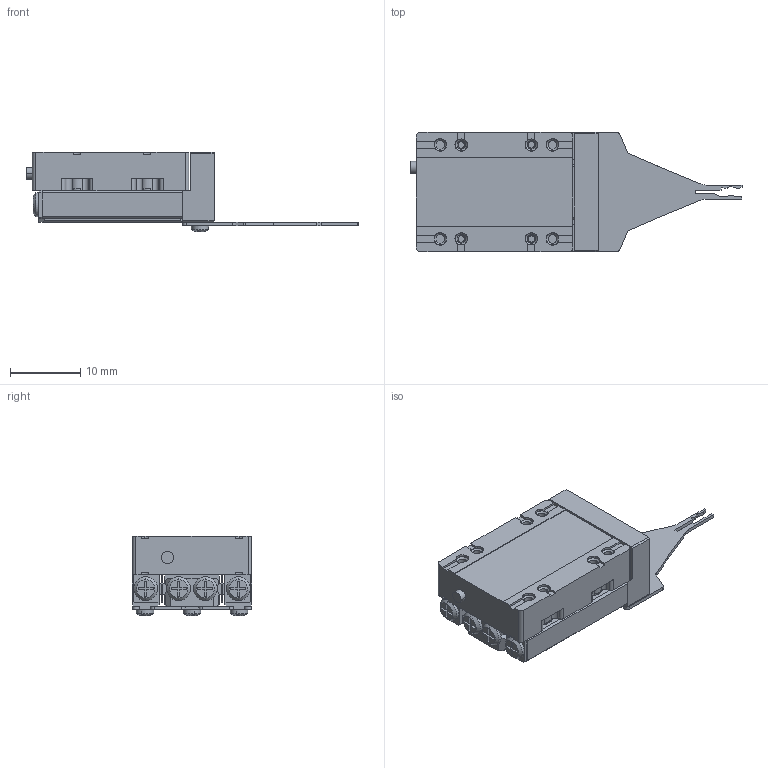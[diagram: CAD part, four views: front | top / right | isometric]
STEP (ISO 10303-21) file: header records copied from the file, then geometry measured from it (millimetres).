
FILE_DESCRIPTION (( 'STEP AP214' ), '1' );
FILE_NAME ('YGPU-P03.STEP', '2026-06-11T03:51:17', ( '' ), ( '' ), 'SwSTEP 2.0', 'SolidWorks 2022', '' );
FILE_SCHEMA (( 'AUTOMOTIVE_DESIGN' ));
Length unit declared in the file: millimetre
Products named in the file (1): YGPU-P03
Bounding box: 47.3 x 17 x 11.38 mm (x, y, z)
Volume: 3865.4 mm3; surface area: 4820.4 mm2
Topology: 26 solids, 26 shells, 887 faces, 2156 edges, 1339 vertices
Faces by surface type: plane 482, cylinder 217, cone 144, torus 22, sphere 22
Entity records: 36020 total; most frequent: DIRECTION 4714, CARTESIAN_POINT 4559, ORIENTED_EDGE 4296, EDGE_CURVE 2148, AXIS2_PLACEMENT_3D 1702, VERTEX_POINT 1335, LINE 1310, VECTOR 1310
